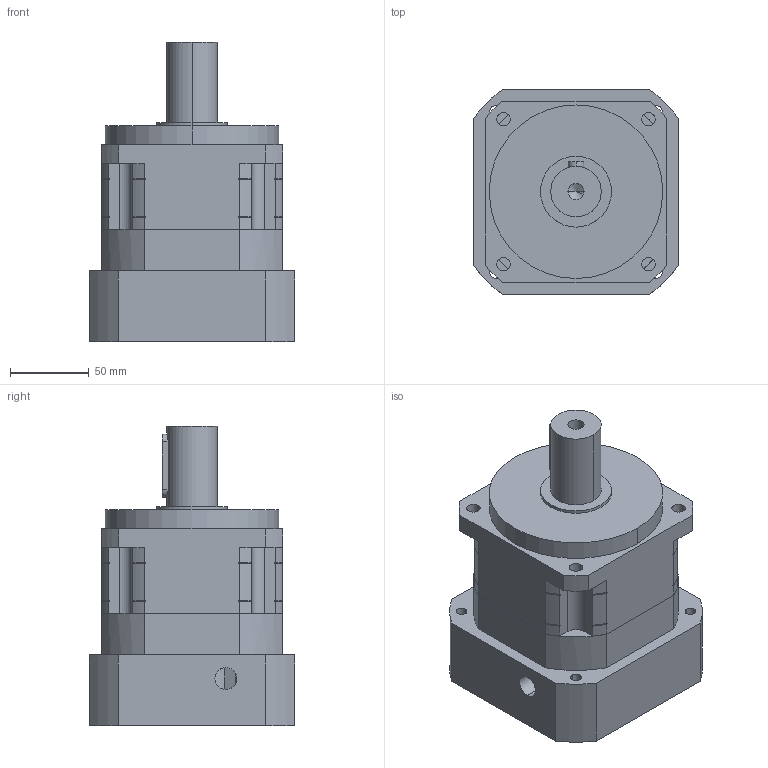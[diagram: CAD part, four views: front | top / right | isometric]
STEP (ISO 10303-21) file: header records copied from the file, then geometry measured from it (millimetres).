
FILE_DESCRIPTION (( 'STEP AP203' ), '1' );
FILE_NAME ('SG115L1.STEP', '2017-06-05T08:12:13', ( 'user1' ), ( '' ), 'SwSTEP 2.0', 'SolidWorks 2012', '' );
FILE_SCHEMA (( 'CONFIG_CONTROL_DESIGN' ));
Length unit declared in the file: millimetre
Products named in the file (5): 零件1^PG115L1_1; SG115L1; 複製 of 複製 of 222^SG115L2; 零件3^PG115L1_1; 零件2^PG115L1_1
Assembly tree (4 placements, depth 2):
  SG115L1
    零件1^PG115L1_1
    零件2^PG115L1_1
    零件3^PG115L1_1
    複製 of 複製 of 222^SG115L2
Bounding box: 130 x 130 x 190 mm (x, y, z)
Volume: 1606316.5 mm3; surface area: 182932.8 mm2
Topology: 4 solids, 4 shells, 243 faces, 671 edges, 446 vertices
Faces by surface type: cylinder 144, plane 94, cone 5
Entity records: 9422 total; most frequent: CARTESIAN_POINT 2469, DIRECTION 1382, ORIENTED_EDGE 1338, EDGE_CURVE 669, AXIS2_PLACEMENT_3D 512, VERTEX_POINT 446, VECTOR 358, LINE 358
